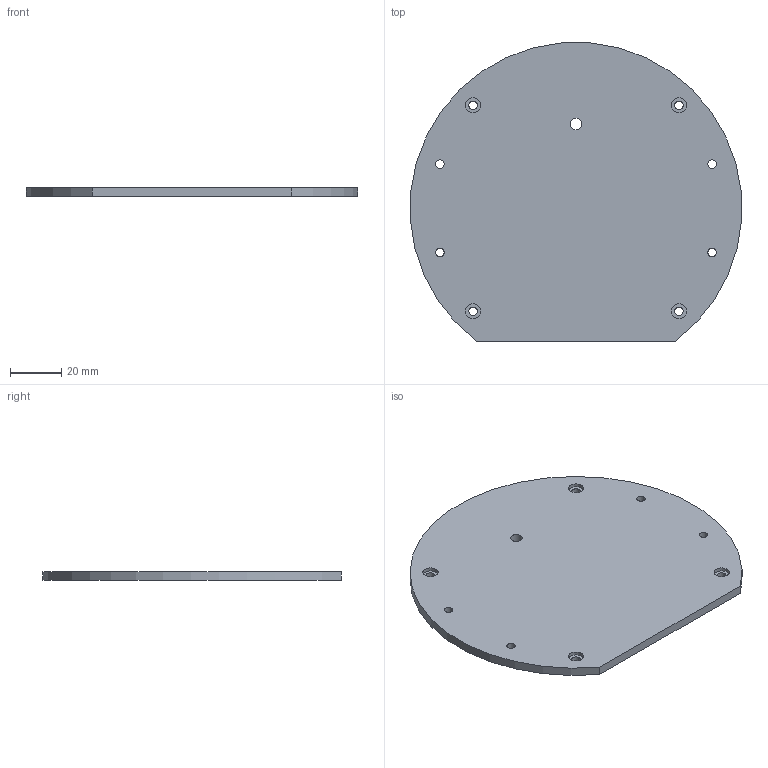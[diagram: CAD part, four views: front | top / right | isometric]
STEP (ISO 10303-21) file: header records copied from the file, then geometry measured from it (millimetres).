
FILE_DESCRIPTION(('Open CASCADE Model'),'2;1');
FILE_NAME('Open CASCADE Shape Model','2026-10-20T19:06:09',('Author'),( 'Open CASCADE'),'Open CASCADE STEP processor 7.9','Open CASCADE 7.9' ,'Unknown');
FILE_SCHEMA(('AUTOMOTIVE_DESIGN { 1 0 10303 214 1 1 1 1 }'));
Length unit declared in the file: millimetre
Products named in the file (1): Open CASCADE STEP translator 7.9 3
Bounding box: 129.72 x 116.76 x 3.5 mm (x, y, z)
Volume: 43630.4 mm3; surface area: 26792.8 mm2
Topology: 1 solids, 1 shells, 21 faces, 45 edges, 30 vertices
Faces by surface type: cylinder 14, plane 7
Full cylindrical faces by diameter (mm): 3.3 x8, 4.6 x1, 6 x4
Entity records: 1267 total; most frequent: CARTESIAN_POINT 309, DIRECTION 180, ORIENTED_EDGE 90, PCURVE 90, DEFINITIONAL_REPRESENTATION 90, LINE 71, VECTOR 71, AXIS2_PLACEMENT_3D 50
